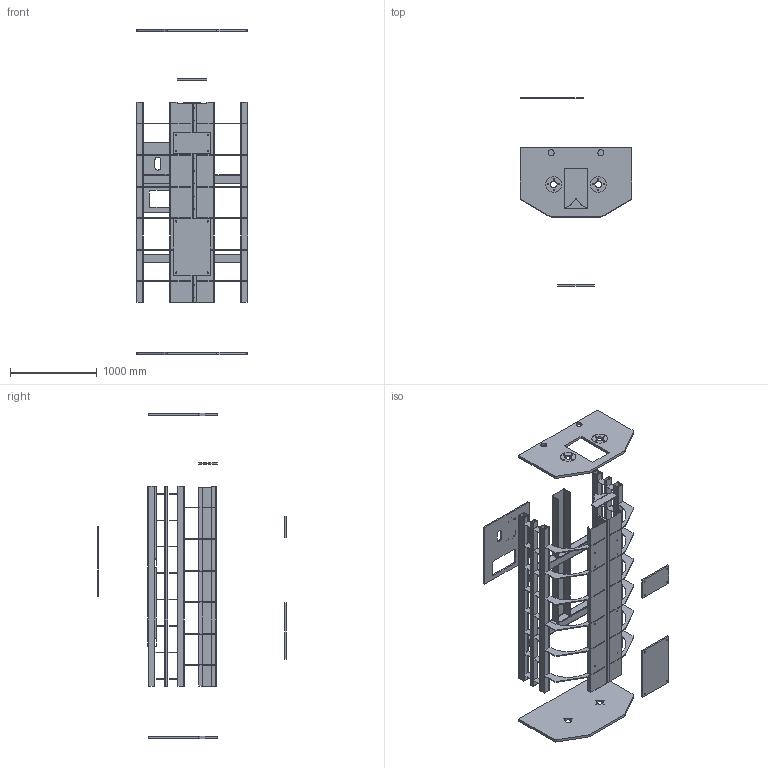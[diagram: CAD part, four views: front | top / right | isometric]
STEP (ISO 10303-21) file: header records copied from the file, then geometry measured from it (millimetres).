
FILE_DESCRIPTION(('HOOPS Exchange Step'),'2;1');
FILE_NAME('Y:\_FDM\CONCORSO_CAPPELLER\FILE DA INVIARE 2\VASCA_CONCORSO_CAPPELLER_2_MOD_SCHELETRO.stp','2026-08-26T10:26:42+02:00',('alessandro'),('Unknown organisation'),'HOOPS Exchange 2025.7','HOOPS Exchange','Unknown authorisation');
FILE_SCHEMA( ('AUTOMOTIVE_DESIGN { 1 0 10303 214 1 1 1 1 }') );
Length unit declared in the file: metre
Products named in the file (23): PIASTRA SUPERIORE; TUBI FE_Default<A macchina>; FIANCO LATERALE ESTERNO; LAMIERA DI RINFORZO INTERNO; RINFORZO PICCOLO SX; RINFORZO PICCOLO DX; LAMIERA INFERIORE; PIASTRA PICCOLA INFERIORE; PIASTRA GARNDE INFERIORE; LONGHERONE DI RINFORZO; PIATTO UNIONE LAMIERE INTERNE; FONDO; TESTATA ANTERIORE; TESTATA POSTERIORE; RINFORZO; FIANCO LATERALE SOTTO; CASTELLO SUPERIORE; VASCA_CONCORSO_CAPPELLER_CASTELLO SUPERIORE; VASCA_CONCORSO_CAPPELLER_SCHELETRO; VASCA_CONCORSO_CAPPELLER_2_MOD_SCHELETRO; Disegno1
Assembly tree (44 placements, depth 6):
  Disegno1
    VASCA_CONCORSO_CAPPELLER_2_MOD_SCHELETRO
      VASCA_CONCORSO_CAPPELLER_SCHELETRO
        VASCA_CONCORSO_CAPPELLER_CASTELLO SUPERIORE
          PIASTRA SUPERIORE
          FIANCO LATERALE ESTERNO
            TUBI FE_Default<A macchina>
          FONDO
            LAMIERA DI RINFORZO INTERNO
            RINFORZO PICCOLO SX  x6
            RINFORZO PICCOLO DX  x6
            LAMIERA INFERIORE
            PIASTRA PICCOLA INFERIORE
            PIASTRA GARNDE INFERIORE
            LONGHERONE DI RINFORZO
            PIATTO UNIONE LAMIERE INTERNE
          TESTATA ANTERIORE
          TESTATA POSTERIORE
          FIANCO LATERALE SOTTO
            RINFORZO  x6
          FIANCO LATERALE ESTERNO
            TUBI FE_Default<A macchina>
          FIANCO LATERALE SOTTO
            RINFORZO  x6
          CASTELLO SUPERIORE
Bounding box: 1283 x 2176.38 x 3754.06 mm (x, y, z)
Volume: 109125881.4 mm3; surface area: 23551301.4 mm2
Topology: 72 solids, 100 shells, 912 faces, 2347 edges, 1612 vertices
Faces by surface type: plane 680, cylinder 232
Full cylindrical faces by diameter (mm): 7 x12, 8 x16, 8.5 x4, 10 x4, 12 x32, 14 x24, 17.5 x2, 70 x2, 80 x4, 180 x4, 300 x2
Entity records: 17766 total; most frequent: DIRECTION 3108, CARTESIAN_POINT 2988, ORIENTED_EDGE 2760, EDGE_CURVE 1420, AXIS2_PLACEMENT_3D 1122, VERTEX_POINT 994, VECTOR 864, LINE 864
